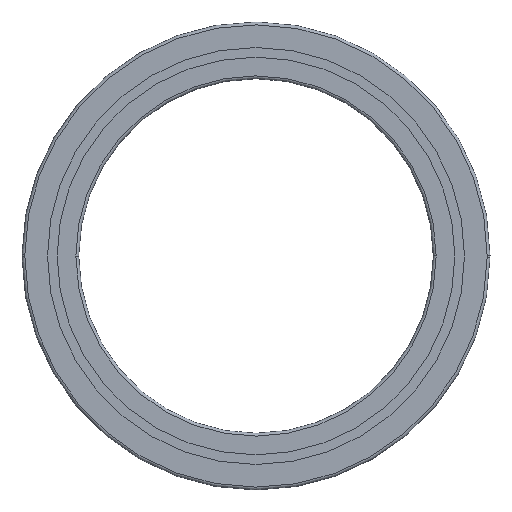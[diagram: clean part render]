
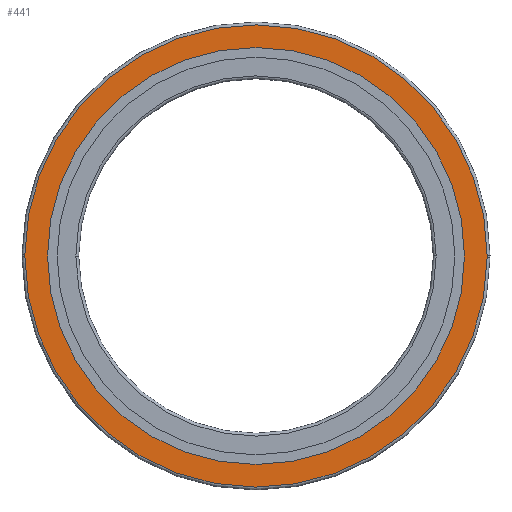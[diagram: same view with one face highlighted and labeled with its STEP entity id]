
A CAD part, front view. The second image highlights one B-rep face of the part: STEP entity #441.
In plain terms, the highlighted planar face has unit normal (0, -1, 0).
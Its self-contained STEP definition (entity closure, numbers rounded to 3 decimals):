
#377=EDGE_CURVE('',#575,#585,#926,.T.);
#417=EDGE_CURVE('',#585,#561,#971,.T.);
#441=ADVANCED_FACE('',(#997,#998),#999,.F.);
#443=EDGE_CURVE('',#767,#575,#1001,.T.);
#453=VERTEX_POINT('',#1012);
#473=EDGE_CURVE('',#453,#589,#1034,.T.);
#557=EDGE_CURVE('',#561,#767,#1130,.T.);
#561=VERTEX_POINT('',#1134);
#575=VERTEX_POINT('',#1150);
#585=VERTEX_POINT('',#1160);
#589=VERTEX_POINT('',#1164);
#761=EDGE_CURVE('',#589,#453,#1356,.T.);
#767=VERTEX_POINT('',#1363);
#926=CIRCLE('',#1540,163.0);
#971=CIRCLE('',#1596,163.0);
#997=FACE_OUTER_BOUND('',#1633,.T.);
#998=FACE_BOUND('',#1634,.T.);
#999=PLANE('',#1635);
#1001=CIRCLE('',#1638,163.0);
#1012=CARTESIAN_POINT('',(-147.0,0.0,0.0));
#1034=CIRCLE('',#1681,147.0);
#1130=CIRCLE('',#1797,163.0);
#1134=CARTESIAN_POINT('',(163.0,0.0,0.0));
#1150=CARTESIAN_POINT('',(-163.0,0.0,0.));
#1160=CARTESIAN_POINT('',(162.997,0.0,-1.008));
#1164=CARTESIAN_POINT('',(147.0,0.0,0.));
#1356=CIRCLE('',#2074,147.0);
#1363=CARTESIAN_POINT('',(-162.997,0.0,1.008));
#1540=AXIS2_PLACEMENT_3D('',#2275,#2276,#2277);
#1596=AXIS2_PLACEMENT_3D('',#2349,#2350,#2351);
#1633=EDGE_LOOP('',(#2382,#2383,#2384,#2385));
#1634=EDGE_LOOP('',(#2386,#2387));
#1635=AXIS2_PLACEMENT_3D('',#2388,#2389,#2390);
#1638=AXIS2_PLACEMENT_3D('',#2391,#2392,#2393);
#1681=AXIS2_PLACEMENT_3D('',#2440,#2441,#2442);
#1797=AXIS2_PLACEMENT_3D('',#2578,#2579,#2580);
#2074=AXIS2_PLACEMENT_3D('',#2846,#2847,#2848);
#2275=CARTESIAN_POINT('',(0.0,0.0,0.0));
#2276=DIRECTION('',(0.0,-1.0,0.0));
#2277=DIRECTION('',(-1.0,0.0,0.0));
#2349=CARTESIAN_POINT('',(0.0,0.0,0.0));
#2350=DIRECTION('',(0.0,-1.0,0.0));
#2351=DIRECTION('',(-1.0,0.0,0.0));
#2382=ORIENTED_EDGE('',*,*,#377,.T.);
#2383=ORIENTED_EDGE('',*,*,#417,.T.);
#2384=ORIENTED_EDGE('',*,*,#557,.T.);
#2385=ORIENTED_EDGE('',*,*,#443,.T.);
#2386=ORIENTED_EDGE('',*,*,#473,.F.);
#2387=ORIENTED_EDGE('',*,*,#761,.F.);
#2388=CARTESIAN_POINT('',(0.0,0.0,0.0));
#2389=DIRECTION('',(0.0,1.0,0.0));
#2390=DIRECTION('',(1.0,0.0,-0.0));
#2391=CARTESIAN_POINT('',(0.0,0.0,0.0));
#2392=DIRECTION('',(0.0,-1.0,0.0));
#2393=DIRECTION('',(1.0,0.0,0.0));
#2440=CARTESIAN_POINT('',(0.0,0.0,0.0));
#2441=DIRECTION('',(0.0,-1.0,0.0));
#2442=DIRECTION('',(-1.0,0.0,0.0));
#2578=CARTESIAN_POINT('',(0.0,0.0,0.0));
#2579=DIRECTION('',(0.0,-1.0,0.0));
#2580=DIRECTION('',(1.0,0.0,0.0));
#2846=CARTESIAN_POINT('',(0.0,0.0,0.0));
#2847=DIRECTION('',(0.0,-1.0,0.0));
#2848=DIRECTION('',(1.0,0.0,0.0));
